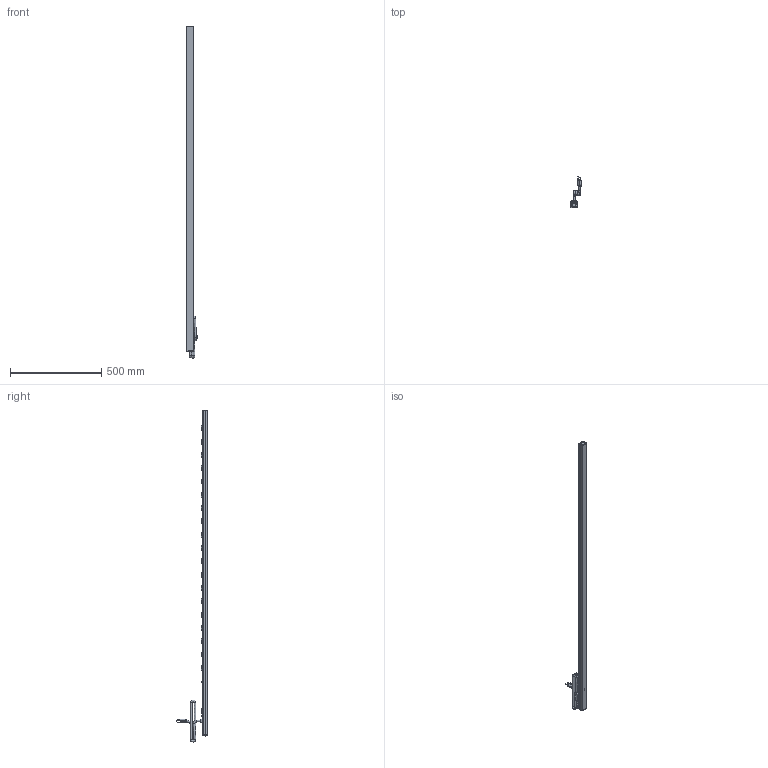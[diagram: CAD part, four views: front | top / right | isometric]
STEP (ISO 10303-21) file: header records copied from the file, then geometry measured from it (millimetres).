
FILE_DESCRIPTION(/* description */ (''),/* implementation_level */ '2;1');
FILE_NAME(/* name */ 'E:\Manufacturing\drawings\Web Drawings\POWER BARS\Surge Protection\1585, 87, 88 ''S'' series\STEP''s\1587T19A1S.stp',/* time_stamp */ '2019-01-14T12:58:22-05:00',/* author */ ('tfoster'),/* organization */ (''),/* preprocessor_version */ 'ST-DEVELOPER v17',/* originating_system */ 'Autodesk Inventor 2019',/* authorisation */ '');
FILE_SCHEMA (('AUTOMOTIVE_DESIGN { 1 0 10303 214 3 1 1 }'));
Length unit declared in the file: inch
Products named in the file (12): 1587T19A1S; 1587H11 top; 1585 bottom; End Cap; End Cap w breaker; Reset Switch; #28032; Cored 2; Power light; tamper proof screw; Surge Light; Receptacle
Assembly tree (32 placements, depth 2):
  1587T19A1S
    1587H11 top
    1585 bottom
    End Cap
    End Cap w breaker
    Reset Switch
    #28032  x4
    Cored 2
    Power light
    tamper proof screw
    Surge Light
    Receptacle  x19
Bounding box: 60.19 x 170.82 x 1821.59 mm (x, y, z)
Volume: 759861.6 mm3; surface area: 697843 mm2
Topology: 32 solids, 32 shells, 1687 faces, 4423 edges, 2759 vertices
Faces by surface type: plane 1021, cylinder 440, bspline 91, sphere 83, cone 38, torus 14
Full cylindrical faces by diameter (mm): 1.803 x3, 1.905 x2, 2.13 x20, 3 x2, 3.175 x12, 3.505 x12, 4.775 x1, 4.826 x1, 6.858 x1, 7.747 x1, 8 x1, 9.5 x5, 9.652 x1, 11 x1, 15.621 x1, 19.05 x2
Entity records: 27771 total; most frequent: CARTESIAN_POINT 10376, ORIENTED_EDGE 3696, DIRECTION 3228, EDGE_CURVE 1848, VERTEX_POINT 1223, LINE 1170, VECTOR 1170, AXIS2_PLACEMENT_3D 1029
